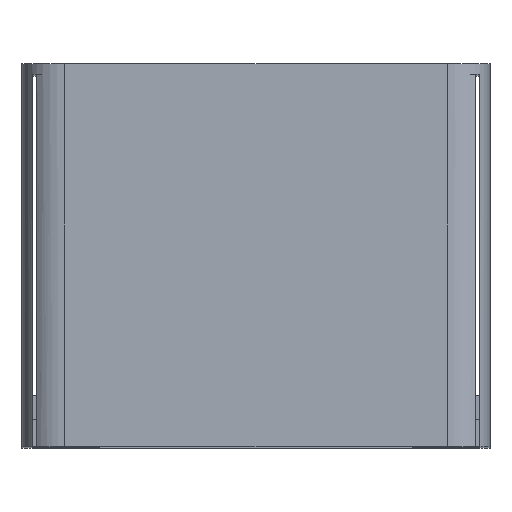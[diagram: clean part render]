
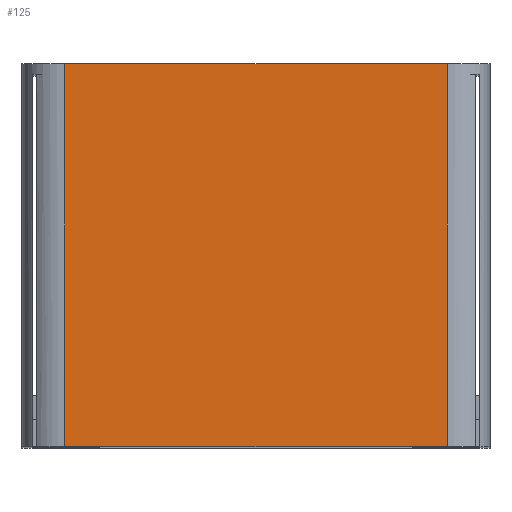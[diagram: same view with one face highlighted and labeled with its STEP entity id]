
A CAD part, top view. The second image highlights one B-rep face of the part: STEP entity #125.
In plain terms, the highlighted planar face has unit normal (0, 0, 1).
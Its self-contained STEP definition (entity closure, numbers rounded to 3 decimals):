
#125 = ADVANCED_FACE('',(#126),#160,.T.);
#126 = FACE_BOUND('',#127,.T.);
#127 = EDGE_LOOP('',(#128,#138,#146,#154));
#128 = ORIENTED_EDGE('',*,*,#129,.F.);
#129 = EDGE_CURVE('',#130,#132,#134,.T.);
#130 = VERTEX_POINT('',#131);
#131 = CARTESIAN_POINT('',(-226.,-255.,330.));
#132 = VERTEX_POINT('',#133);
#133 = CARTESIAN_POINT('',(-226.,-147.,330.));
#134 = LINE('',#135,#136);
#135 = CARTESIAN_POINT('',(-226.,-255.,330.));
#136 = VECTOR('',#137,1.);
#137 = DIRECTION('',(-0.,1.,0.));
#138 = ORIENTED_EDGE('',*,*,#139,.T.);
#139 = EDGE_CURVE('',#130,#140,#142,.T.);
#140 = VERTEX_POINT('',#141);
#141 = CARTESIAN_POINT('',(-118.,-255.,330.));
#142 = LINE('',#143,#144);
#143 = CARTESIAN_POINT('',(-226.,-255.,330.));
#144 = VECTOR('',#145,1.);
#145 = DIRECTION('',(1.,0.,-0.));
#146 = ORIENTED_EDGE('',*,*,#147,.T.);
#147 = EDGE_CURVE('',#140,#148,#150,.T.);
#148 = VERTEX_POINT('',#149);
#149 = CARTESIAN_POINT('',(-118.,-147.,330.));
#150 = LINE('',#151,#152);
#151 = CARTESIAN_POINT('',(-118.,-255.,330.));
#152 = VECTOR('',#153,1.);
#153 = DIRECTION('',(-0.,1.,0.));
#154 = ORIENTED_EDGE('',*,*,#155,.F.);
#155 = EDGE_CURVE('',#132,#148,#156,.T.);
#156 = LINE('',#157,#158);
#157 = CARTESIAN_POINT('',(-226.,-147.,330.));
#158 = VECTOR('',#159,1.);
#159 = DIRECTION('',(1.,0.,-0.));
#160 = PLANE('',#161);
#161 = AXIS2_PLACEMENT_3D('',#162,#163,#164);
#162 = CARTESIAN_POINT('',(-226.,-255.,330.));
#163 = DIRECTION('',(0.,0.,1.));
#164 = DIRECTION('',(1.,0.,-0.));
